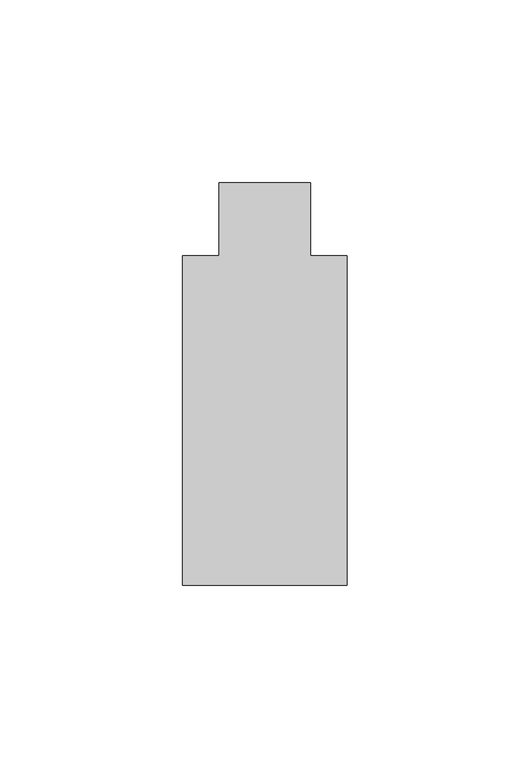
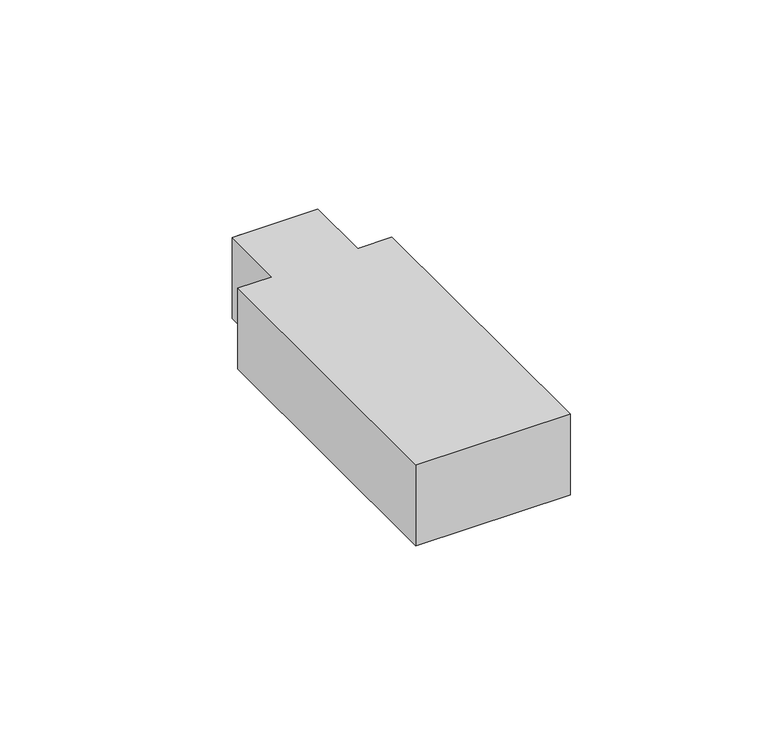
"""IFC4 building model written with IfcOpenShell, lengths in millimetres: cable carrier fitting geometry, КНС_ОтводОтКоробовПлинтусногоТипаККоробкам_ILF_DKC : Отвод узкий к коробкам."""

from ifc_helpers import new_model, si_unit, frame, origin, place, context, project, spatial, polyline, outline, extrude, faceted_brep, source, transform, mapped, element, save


def cable_carrier_fitting_38cc83f5(model_context):
    return source(origin(), model_context, "Body", "SolidModel", [
        extrude(outline(polyline([(-12.5, 45.0), (-12.5, 65.0), (12.5, 65.0), (12.5, 45.0), (22.5, 45.0), (22.5, -45.0), (-22.5, -45.0), (-22.5, 45.0), (-12.5, 45.0)])), frame((0.0, 0.0, -12.5), z_axis=(0.0, 0.0, 1.0), x_axis=(1.0, 0.0, 0.0)), (0.0, 0.0, 1.0), 25.0),
        faceted_brep([(22.5, -42.5, -10.0), (22.5, 42.5, -10.0), (10.0, 42.5, -10.0), (10.0, 65.0, -10.0), (-10.0, 65.0, -10.0), (-10.0, 42.5, -10.0), (-22.5, 42.5, -10.0), (-22.5, -42.5, -10.0), (22.5, -45.0, -12.5), (-22.5, -45.0, -12.5), (-22.5, 45.0, -12.5), (-12.5, 45.0, -12.5), (-12.5, 65.0, -12.5), (12.5, 65.0, -12.5), (12.5, 45.0, -12.5), (22.5, 45.0, -12.5), (22.5, 45.0, 12.5), (22.5, 42.5, 12.5), (22.5, -42.5, 12.5), (22.5, -45.0, 12.5), (12.5, 45.0, 12.5), (12.5, 65.0, 12.5), (-12.5, 65.0, 12.5), (-10.0, 65.0, 12.5), (10.0, 65.0, 12.5), (-12.5, 45.0, 12.5), (-22.5, 45.0, 12.5), (-22.5, -45.0, 12.5), (-22.5, -42.5, 12.5), (-22.5, 42.5, 12.5), (10.0, 42.5, 12.5), (-10.0, 42.5, 12.5)], [[[0, 1, 2, 3, 4, 5, 6, 7]], [[8, 9, 10, 11, 12, 13, 14, 15]], [[8, 15, 16, 17, 1, 0, 18, 19]], [[16, 15, 14, 20]], [[20, 14, 13, 21]], [[21, 13, 12, 22, 23, 4, 3, 24]], [[22, 12, 11, 25]], [[25, 11, 10, 26]], [[26, 10, 9, 27, 28, 7, 6, 29]], [[27, 9, 8, 19]], [[20, 21, 24, 30, 17, 16]], [[25, 26, 29, 31, 23, 22]], [[27, 19, 18, 28]], [[31, 29, 6, 5]], [[23, 31, 5, 4]], [[30, 24, 3, 2]], [[17, 30, 2, 1]], [[28, 18, 0, 7]]]),
    ])


if __name__ == "__main__":
    model = new_model("IFC4")
    model_context = context("Model", 3, world=origin())
    ifc_project = project(units=[si_unit("LENGTHUNIT", "METRE", prefix="MILLI")], contexts=[model_context])
    site = spatial("IfcSite", under=ifc_project)
    building = spatial("IfcBuilding", under=site)
    placement = place(None, origin())
    cable_carrier_fitting_shape = cable_carrier_fitting_38cc83f5(model_context)
    element("IfcCableCarrierFitting", 1, ObjectType="КНС_ОтводОтКоробовПлинтусногоТипаККоробкам_ILF_DKC : Отвод узкий к коробкам", at=placement, inside=building, context=model_context, shape_type="MappedRepresentation", body=[
        mapped(cable_carrier_fitting_shape, transform((0.0, 0.0, 0.0), x_axis=(1.0, 0.0, 0.0), y_axis=(0.0, 1.0, 0.0), z_axis=(0.0, 0.0, 1.0))),
    ])
    save(model, "model.ifc")
